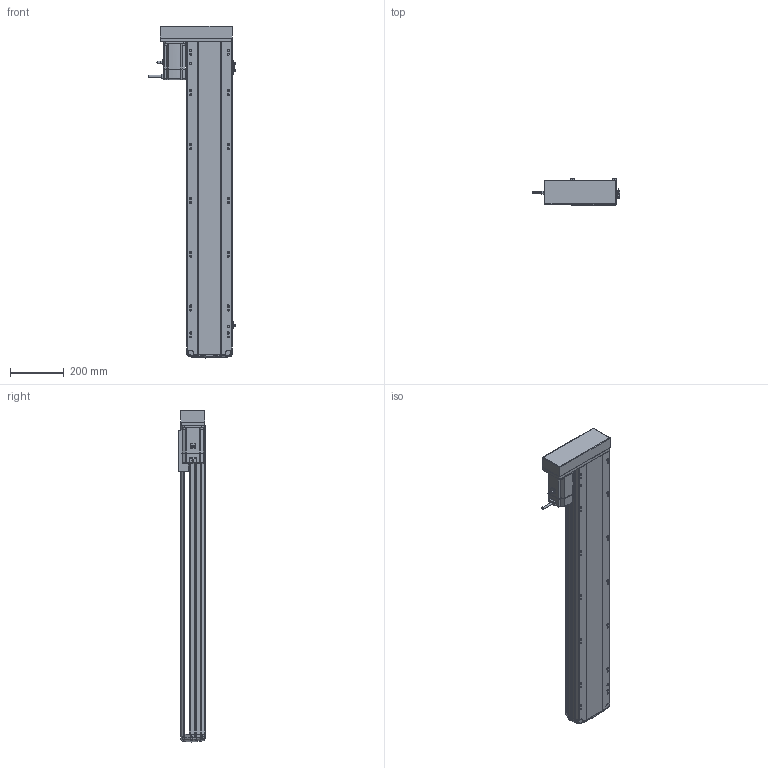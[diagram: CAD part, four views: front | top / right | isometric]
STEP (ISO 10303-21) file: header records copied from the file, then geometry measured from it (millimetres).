
FILE_DESCRIPTION (( 'STEP AP214' ), '1' );
FILE_NAME ('RTH17-XX-950-R-M75-C4.STEP', '2025-10-24T10:02:36', ( '' ), ( '' ), 'SwSTEP 2.0', 'SolidWorks 2018', '' );
FILE_SCHEMA (( 'AUTOMOTIVE_DESIGN' ));
Length unit declared in the file: millimetre
Products named in the file (10): N_RTH17-L-008-P75电机安装板左转折^RTH17-XX-XX-R-M75-C4（方程式）; N_RTH17-E-004丝杆螺母连接座^RTH17-XX-XX-R-M75-C4（方程式）; N_RTH17-GY-001P^RTH17-XX-XX-R-M75-C4（方程式）; N_OMRON EE-SX672 換覜ん^RTH17-XX-XX-R-M75-C4ㄗ源最宒ㄘ; N_RTH17-L-018盖子^RTH17-XX-XX-R-M75-C4（方程式）; N_RTH17-M-007上盖^RTH17-XX-XX-R-M75-C4（方程式）; N_RTH17-M-011底座^RTH17-XX-XX-R-M75-C4（方程式）; RTH17-XX-950-R-M75-C4; N_M75^RTH17-XX-XX-R-M75-C4（方程式）; N_RTH-L-012 感应片(外置)^RTH17-XX-XX-R-M75-C4（方程式）
Assembly tree (11 placements, depth 2):
  RTH17-XX-950-R-M75-C4
    N_RTH17-M-011底座^RTH17-XX-XX-R-M75-C4（方程式）
    N_RTH17-M-007上盖^RTH17-XX-XX-R-M75-C4（方程式）
    N_M75^RTH17-XX-XX-R-M75-C4（方程式）
    N_OMRON EE-SX672 換覜ん^RTH17-XX-XX-R-M75-C4ㄗ源最宒ㄘ  x3
    N_RTH-L-012 感应片(外置)^RTH17-XX-XX-R-M75-C4（方程式）
    N_RTH17-L-008-P75电机安装板左转折^RTH17-XX-XX-R-M75-C4（方程式）
    N_RTH17-L-018盖子^RTH17-XX-XX-R-M75-C4（方程式）
    N_RTH17-E-004丝杆螺母连接座^RTH17-XX-XX-R-M75-C4（方程式）
    N_RTH17-GY-001P^RTH17-XX-XX-R-M75-C4（方程式）
Bounding box: 326.2 x 97 x 1232.99 mm (x, y, z)
Volume: 10910040.6 mm3; surface area: 1367674.8 mm2
Topology: 13 solids, 15 shells, 1773 faces, 4889 edges, 3166 vertices
Faces by surface type: plane 835, cylinder 524, bspline 377, cone 28, torus 9
Entity records: 52037 total; most frequent: CARTESIAN_POINT 20749, ORIENTED_EDGE 6802, DIRECTION 5653, EDGE_CURVE 3405, VERTEX_POINT 2202, AXIS2_PLACEMENT_3D 1909, VECTOR 1835, LINE 1835
